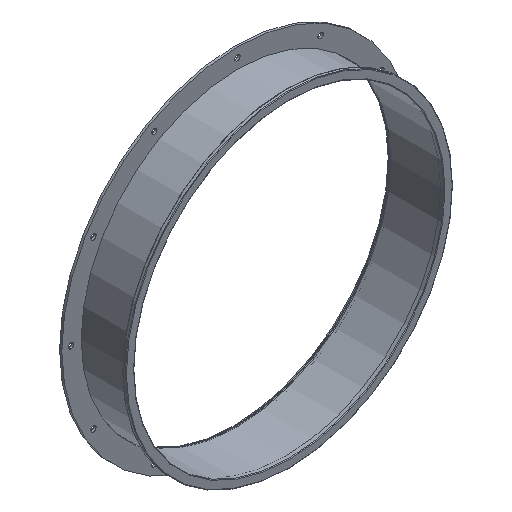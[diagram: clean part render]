
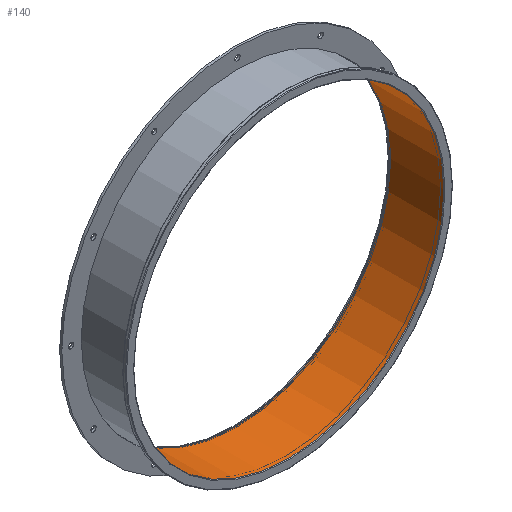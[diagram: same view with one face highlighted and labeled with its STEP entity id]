
A CAD part, isometric view. The second image highlights one B-rep face of the part: STEP entity #140.
In plain terms, the highlighted cylindrical face has radius 280 mm (diameter 560 mm), a full revolution.
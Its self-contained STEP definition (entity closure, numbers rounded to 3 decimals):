
#107=CYLINDRICAL_SURFACE('',#619,280.);
#140=ADVANCED_FACE('',(#181,#182),#107,.F.);
#181=FACE_BOUND('',#277,.T.);
#182=FACE_BOUND('',#278,.T.);
#277=EDGE_LOOP('',(#373));
#278=EDGE_LOOP('',(#374));
#373=ORIENTED_EDGE('',*,*,#516,.T.);
#374=ORIENTED_EDGE('',*,*,#517,.T.);
#468=VERTEX_POINT('',#880);
#469=VERTEX_POINT('',#882);
#516=EDGE_CURVE('',#468,#468,#564,.T.);
#517=EDGE_CURVE('',#469,#469,#565,.T.);
#564=CIRCLE('',#617,280.);
#565=CIRCLE('',#618,280.);
#617=AXIS2_PLACEMENT_3D('',#879,#714,#715);
#618=AXIS2_PLACEMENT_3D('',#881,#716,#717);
#619=AXIS2_PLACEMENT_3D('',#883,#718,#719);
#714=DIRECTION('',(0.,-1.,0.));
#715=DIRECTION('',(-1.,0.,0.));
#716=DIRECTION('',(0.,1.,0.));
#717=DIRECTION('',(1.,0.,0.));
#718=DIRECTION('',(0.,1.,0.));
#719=DIRECTION('',(1.,0.,0.));
#879=CARTESIAN_POINT('',(0.,1.,0.));
#880=CARTESIAN_POINT('',(-280.,1.,0.));
#881=CARTESIAN_POINT('',(0.,99.,0.));
#882=CARTESIAN_POINT('',(280.,99.,0.));
#883=CARTESIAN_POINT('',(0.,-192.076,0.));
